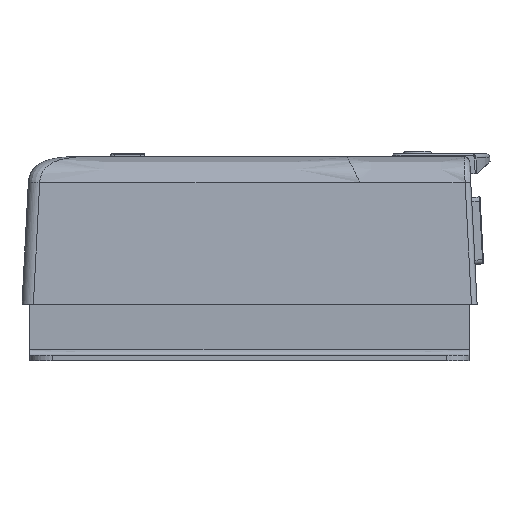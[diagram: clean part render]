
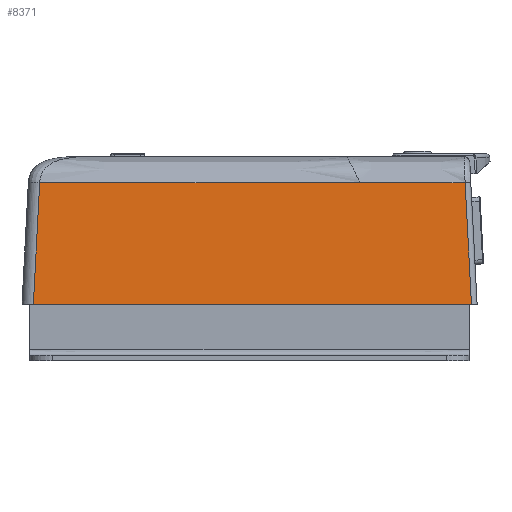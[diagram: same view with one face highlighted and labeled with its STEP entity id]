
A CAD part, left-side view. The second image highlights one B-rep face of the part: STEP entity #8371.
In plain terms, the highlighted planar face has unit normal (-0.999, 0, 0.052).
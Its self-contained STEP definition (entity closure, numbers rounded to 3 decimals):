
#214=DIRECTION('',(0.,-1.,0.));
#215=VECTOR('',#214,36.943);
#216=CARTESIAN_POINT('',(-98.991,-39.051,38.337));
#217=LINE('',#216,#215);
#218=DIRECTION('',(-0.052,-0.052,-0.997));
#219=VECTOR('',#218,42.954);
#220=CARTESIAN_POINT('',(-98.991,-75.994,38.336));
#221=LINE('',#220,#219);
#222=DIRECTION('',(0.052,-0.052,0.997));
#223=VECTOR('',#222,42.954);
#224=CARTESIAN_POINT('',(-101.236,76.241,-4.5));
#225=LINE('',#224,#223);
#226=DIRECTION('',(0.,1.,0.));
#227=VECTOR('',#226,113.047);
#228=CARTESIAN_POINT('',(-98.991,-39.051,38.337));
#229=LINE('',#228,#227);
#522=DIRECTION('',(0.,-1.,0.));
#523=VECTOR('',#522,154.48);
#524=CARTESIAN_POINT('',(-101.236,76.241,-4.5));
#525=LINE('',#524,#523);
#6718=CARTESIAN_POINT('',(-101.236,76.241,
-4.5));
#6719=CARTESIAN_POINT('',(-98.991,73.996,38.337));
#6720=VERTEX_POINT('',#6718);
#6721=VERTEX_POINT('',#6719);
#6722=CARTESIAN_POINT('',(-98.991,-39.051,
38.337));
#6723=VERTEX_POINT('',#6722);
#6724=CARTESIAN_POINT('',(-98.991,-75.994,
38.336));
#6725=VERTEX_POINT('',#6724);
#6726=CARTESIAN_POINT('',(-101.236,-78.239,
-4.5));
#6727=VERTEX_POINT('',#6726);
#8355=CARTESIAN_POINT('',(-101.,-61.792,0.));
#8356=DIRECTION('',(-0.999,0.,0.052));
#8357=DIRECTION('',(0.,1.,0.));
#8358=AXIS2_PLACEMENT_3D('',#8355,#8356,#8357);
#8359=PLANE('',#8358);
#8361=ORIENTED_EDGE('',*,*,#8360,.F.);
#8363=ORIENTED_EDGE('',*,*,#8362,.T.);
#8365=ORIENTED_EDGE('',*,*,#8364,.T.);
#8367=ORIENTED_EDGE('',*,*,#8366,.F.);
#8368=ORIENTED_EDGE('',*,*,#8345,.T.);
#8369=EDGE_LOOP('',(#8361,#8363,#8365,#8367,#8368));
#8370=FACE_OUTER_BOUND('',#8369,.F.);
#8371=ADVANCED_FACE('',(#8370),#8359,.T.);
#8345=EDGE_CURVE('',#6720,#6721,#225,.T.);
#8360=EDGE_CURVE('',#6723,#6721,#229,.T.);
#8362=EDGE_CURVE('',#6723,#6725,#217,.T.);
#8364=EDGE_CURVE('',#6725,#6727,#221,.T.);
#8366=EDGE_CURVE('',#6720,#6727,#525,.T.);
